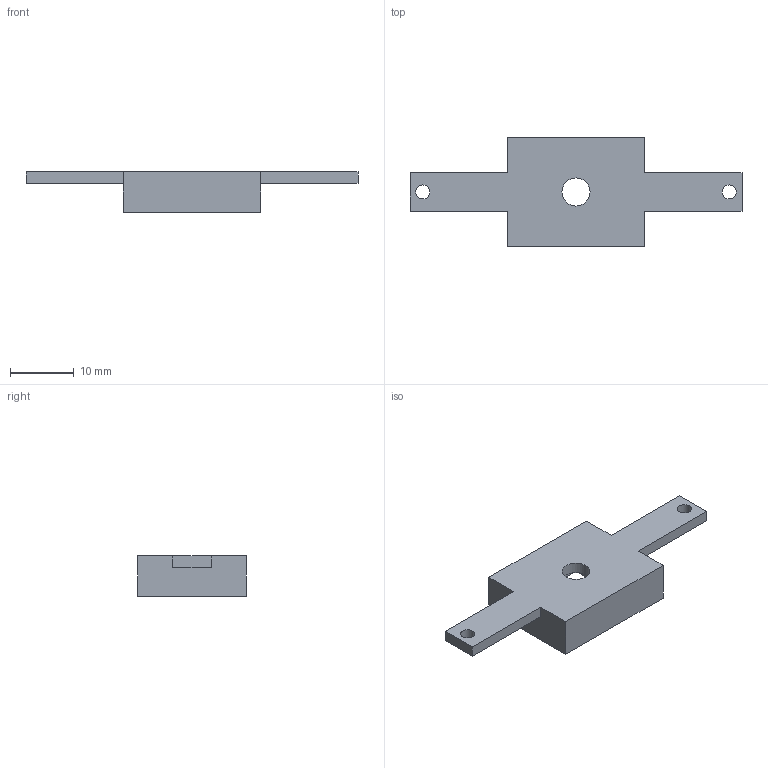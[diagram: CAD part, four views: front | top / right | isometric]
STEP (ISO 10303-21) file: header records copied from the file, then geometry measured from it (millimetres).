
FILE_DESCRIPTION(('Open CASCADE Model'),'2;1');
FILE_NAME('Open CASCADE Shape Model','2026-09-08T13:27:14',('Author'),( 'Open CASCADE'),'Open CASCADE STEP processor 7.7','Open CASCADE 7.7' ,'Unknown');
FILE_SCHEMA(('AUTOMOTIVE_DESIGN { 1 0 10303 214 1 1 1 1 }'));
Length unit declared in the file: millimetre
Products named in the file (1): Open CASCADE STEP translator 7.7 15
Bounding box: 52 x 17 x 6.29 mm (x, y, z)
Volume: 1972.6 mm3; surface area: 1968.9 mm2
Topology: 1 solids, 1 shells, 32 faces, 72 edges, 48 vertices
Faces by surface type: plane 24, cylinder 8
Full cylindrical faces by diameter (mm): 1.7 x4, 2.2 x2, 4.4 x1, 7.6 x1
Entity records: 1850 total; most frequent: DIRECTION 298, CARTESIAN_POINT 297, LINE 184, VECTOR 184, ORIENTED_EDGE 144, PCURVE 144, DEFINITIONAL_REPRESENTATION 144, EDGE_CURVE 72
